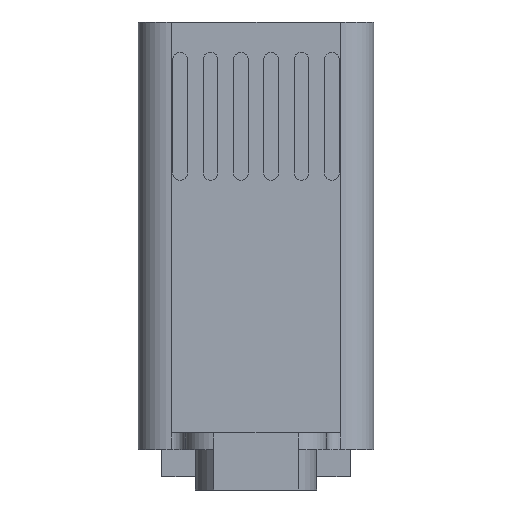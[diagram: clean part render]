
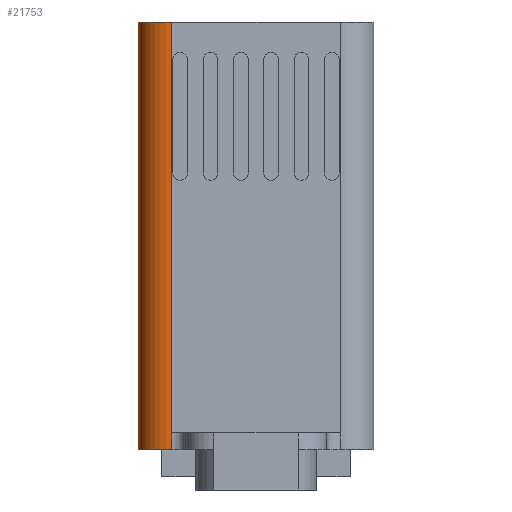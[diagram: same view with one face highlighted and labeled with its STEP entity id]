
A CAD part, front view. The second image highlights one B-rep face of the part: STEP entity #21753.
In plain terms, the highlighted cylindrical face has radius 5 mm (diameter 10 mm), a partial arc.
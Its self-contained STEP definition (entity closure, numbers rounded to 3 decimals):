
#784 = CARTESIAN_POINT ( 'NONE',  ( 5., -60.9, 2.5 ) ) ;
#912 = LINE ( 'NONE', #784, #12341 ) ;
#1114 = CARTESIAN_POINT ( 'NONE',  ( 5., -55.9, 63.5 ) ) ;
#2279 = VERTEX_POINT ( 'NONE', #6605 ) ;
#2607 = EDGE_CURVE ( 'NONE', #16125, #2279, #912, .T. ) ;
#2835 = ORIENTED_EDGE ( 'NONE', *, *, #23450, .T. ) ;
#4311 = AXIS2_PLACEMENT_3D ( 'NONE', #1114, #17871, #4681 ) ;
#4595 = DIRECTION ( 'NONE',  ( 0., 0., -1. ) ) ;
#4681 = DIRECTION ( 'NONE',  ( 0., 1., 0. ) ) ;
#6016 = DIRECTION ( 'NONE',  ( 0., -1., 0. ) ) ;
#6091 = LINE ( 'NONE', #13609, #6649 ) ;
#6605 = CARTESIAN_POINT ( 'NONE',  ( 5., -60.9, 0. ) ) ;
#6649 = VECTOR ( 'NONE', #9912, 1000. ) ;
#7509 = DIRECTION ( 'NONE',  ( 0., 0., 1. ) ) ;
#7700 = CARTESIAN_POINT ( 'NONE',  ( 0., -55.9, 0. ) ) ;
#7811 = CARTESIAN_POINT ( 'NONE',  ( 5., -60.9, 63.5 ) ) ;
#8923 = LINE ( 'NONE', #22343, #19575 ) ;
#9202 = CARTESIAN_POINT ( 'NONE',  ( 0., -55.9, 63.5 ) ) ;
#9386 = AXIS2_PLACEMENT_3D ( 'NONE', #18224, #16370, #12801 ) ;
#9774 = CIRCLE ( 'NONE', #9386, 5. ) ;
#9912 = DIRECTION ( 'NONE',  ( 0., 0., 1. ) ) ;
#11161 = EDGE_CURVE ( 'NONE', #22720, #16125, #8923, .T. ) ;
#12341 = VECTOR ( 'NONE', #4595, 1000. ) ;
#12343 = CYLINDRICAL_SURFACE ( 'NONE', #4311, 5. ) ;
#12801 = DIRECTION ( 'NONE',  ( 1., 0., 0. ) ) ;
#13096 = ORIENTED_EDGE ( 'NONE', *, *, #17475, .F. ) ;
#13609 = CARTESIAN_POINT ( 'NONE',  ( 0., -55.9, 63.5 ) ) ;
#13744 = AXIS2_PLACEMENT_3D ( 'NONE', #22902, #7509, #6016 ) ;
#13938 = FACE_OUTER_BOUND ( 'NONE', #24082, .T. ) ;
#15149 = EDGE_CURVE ( 'NONE', #23777, #16512, #6091, .T. ) ;
#15254 = ORIENTED_EDGE ( 'NONE', *, *, #15149, .F. ) ;
#15479 = ORIENTED_EDGE ( 'NONE', *, *, #2607, .F. ) ;
#16125 = VERTEX_POINT ( 'NONE', #24135 ) ;
#16370 = DIRECTION ( 'NONE',  ( 0., 0., 1. ) ) ;
#16431 = DIRECTION ( 'NONE',  ( 0., 0., -1. ) ) ;
#16512 = VERTEX_POINT ( 'NONE', #9202 ) ;
#16899 = CIRCLE ( 'NONE', #13744, 5. ) ;
#17475 = EDGE_CURVE ( 'NONE', #16512, #22720, #16899, .T. ) ;
#17871 = DIRECTION ( 'NONE',  ( 0., 0., -1. ) ) ;
#18224 = CARTESIAN_POINT ( 'NONE',  ( 5., -55.9, 0. ) ) ;
#19575 = VECTOR ( 'NONE', #16431, 1000. ) ;
#21146 = ORIENTED_EDGE ( 'NONE', *, *, #11161, .F. ) ;
#21753 = ADVANCED_FACE ( 'NONE', ( #13938 ), #12343, .T. ) ;
#22343 = CARTESIAN_POINT ( 'NONE',  ( 5., -60.9, 2.5 ) ) ;
#22720 = VERTEX_POINT ( 'NONE', #7811 ) ;
#22902 = CARTESIAN_POINT ( 'NONE',  ( 5., -55.9, 63.5 ) ) ;
#23450 = EDGE_CURVE ( 'NONE', #23777, #2279, #9774, .T. ) ;
#23777 = VERTEX_POINT ( 'NONE', #7700 ) ;
#24082 = EDGE_LOOP ( 'NONE', ( #15254, #2835, #15479, #21146, #13096 ) ) ;
#24135 = CARTESIAN_POINT ( 'NONE',  ( 5., -60.9, 2.5 ) ) ;
